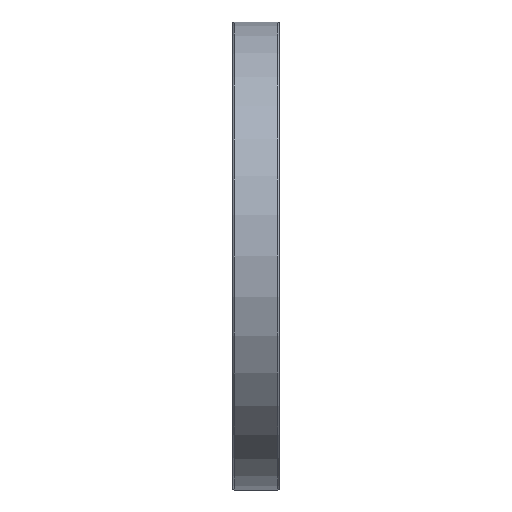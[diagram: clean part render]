
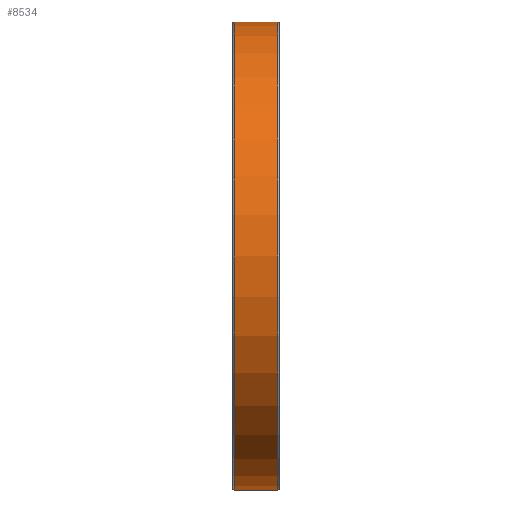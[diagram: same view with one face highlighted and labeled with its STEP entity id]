
A CAD part, left-side view. The second image highlights one B-rep face of the part: STEP entity #8534.
In plain terms, the highlighted cylindrical face has radius 130 mm (diameter 260 mm), a partial arc.
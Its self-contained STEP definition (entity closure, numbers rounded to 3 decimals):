
#121 = CARTESIAN_POINT ( 'NONE',  ( -125.667, 1., -130. ) ) ;
#654 = CIRCLE ( 'NONE', #10747, 130. ) ;
#734 = CARTESIAN_POINT ( 'NONE',  ( -125.667, 25., 130. ) ) ;
#832 = CARTESIAN_POINT ( 'NONE',  ( -125.667, 26., 0. ) ) ;
#1020 = ORIENTED_EDGE ( 'NONE', *, *, #10299, .F. ) ;
#1085 = DIRECTION ( 'NONE',  ( 0., -1., 0. ) ) ;
#1328 = ORIENTED_EDGE ( 'NONE', *, *, #12575, .T. ) ;
#1907 = DIRECTION ( 'NONE',  ( 0., -1., 0. ) ) ;
#2075 = AXIS2_PLACEMENT_3D ( 'NONE', #8435, #1085, #5269 ) ;
#2245 = AXIS2_PLACEMENT_3D ( 'NONE', #832, #7077, #4813 ) ;
#2358 = VERTEX_POINT ( 'NONE', #121 ) ;
#2727 = VERTEX_POINT ( 'NONE', #734 ) ;
#4161 = CARTESIAN_POINT ( 'NONE',  ( -125.667, 26., -130. ) ) ;
#4204 = ORIENTED_EDGE ( 'NONE', *, *, #5236, .T. ) ;
#4497 = ORIENTED_EDGE ( 'NONE', *, *, #12132, .T. ) ;
#4813 = DIRECTION ( 'NONE',  ( 0., 0., 1. ) ) ;
#5236 = EDGE_CURVE ( 'NONE', #2727, #6675, #9760, .T. ) ;
#5269 = DIRECTION ( 'NONE',  ( 0., 0., 1. ) ) ;
#5499 = FACE_OUTER_BOUND ( 'NONE', #10549, .T. ) ;
#6169 = LINE ( 'NONE', #7141, #7958 ) ;
#6675 = VERTEX_POINT ( 'NONE', #7012 ) ;
#6701 = DIRECTION ( 'NONE',  ( 0., 1., 0. ) ) ;
#7012 = CARTESIAN_POINT ( 'NONE',  ( -125.667, 25., -130. ) ) ;
#7077 = DIRECTION ( 'NONE',  ( 0., -1., 0. ) ) ;
#7141 = CARTESIAN_POINT ( 'NONE',  ( -125.667, 26., 130. ) ) ;
#7258 = LINE ( 'NONE', #4161, #10503 ) ;
#7958 = VECTOR ( 'NONE', #11420, 1000. ) ;
#7988 = CYLINDRICAL_SURFACE ( 'NONE', #2245, 130. ) ;
#8435 = CARTESIAN_POINT ( 'NONE',  ( -125.667, 25., 0. ) ) ;
#8534 = ADVANCED_FACE ( 'NONE', ( #5499 ), #7988, .T. ) ;
#8764 = VERTEX_POINT ( 'NONE', #12593 ) ;
#9760 = CIRCLE ( 'NONE', #2075, 130. ) ;
#9801 = CARTESIAN_POINT ( 'NONE',  ( -125.667, 1., 0. ) ) ;
#10299 = EDGE_CURVE ( 'NONE', #2727, #8764, #6169, .T. ) ;
#10503 = VECTOR ( 'NONE', #1907, 1000. ) ;
#10549 = EDGE_LOOP ( 'NONE', ( #4497, #1328, #1020, #4204 ) ) ;
#10700 = DIRECTION ( 'NONE',  ( 0., 0., 1. ) ) ;
#10747 = AXIS2_PLACEMENT_3D ( 'NONE', #9801, #6701, #10700 ) ;
#11420 = DIRECTION ( 'NONE',  ( 0., -1., 0. ) ) ;
#12132 = EDGE_CURVE ( 'NONE', #6675, #2358, #7258, .T. ) ;
#12575 = EDGE_CURVE ( 'NONE', #2358, #8764, #654, .T. ) ;
#12593 = CARTESIAN_POINT ( 'NONE',  ( -125.667, 1., 130. ) ) ;
